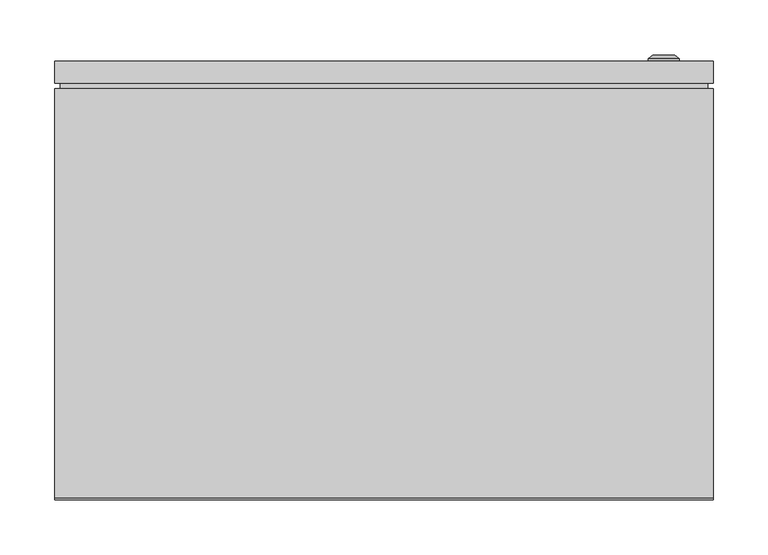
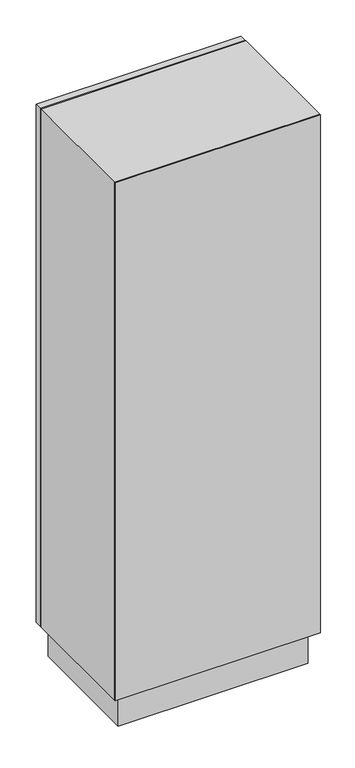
"""IFC4 building model written with IfcOpenShell, lengths in millimetres: proxy geometry, ЩМП_IP65 : ЩМП-16.6.4-0_1600х600х400."""

from ifc_helpers import new_model, si_unit, frame, origin, origin_with_axes, place, context, project, spatial, polyline, circle_curve, outline, extrude, source, transform, mapped, element, save
from ifc_brep_helpers import plane_surface, cylinder_surface, revolved_surface, advanced_brep


def electrical_equipment_e6f91f29(model_context):
    return source(origin(), model_context, "Body", "SolidModel", [
        extrude(outline(polyline([(277.5067809, 377.5), (277.5067809, 22.5), (-277.5, 22.5), (-277.5, 377.5), (277.5067809, 377.5)])), frame((0.0, 0.0, -100.0), z_axis=(0.0, 0.0, 1.0), x_axis=(1.0, 0.0, 0.0)), (0.0, 0.0, 1.0), 100.0),
        extrude(outline(polyline([(295.0, 375.0), (-295.0, 375.0), (-295.0, 380.0), (295.0, 380.0), (295.0, 375.0)])), frame((0.0, 0.0, 5.0), z_axis=(0.0, 0.0, 1.0), x_axis=(1.0, 0.0, 0.0)), (0.0, 0.0, 1.0), 1590.0),
        extrude(outline(polyline([(300.0, 380.0), (-300.0, 380.0), (-300.0, 400.0), (300.0, 400.0), (300.0, 380.0)])), origin_with_axes(), (0.0, 0.0, 1.0), 1600.0),
        advanced_brep(
        [(240.669873, 400.0, 800.0), (269.330127, 400.0, 800.0), (255.0, 400.0, 800.0), (240.669873, 402.366592, 800.0), (269.330127, 402.366592, 800.0), (245.0, 406.0, 800.0), (265.0, 406.0, 800.0), (253.1080471, 406.0, 800.0), (256.8919529, 406.0, 800.0), (253.1080471, 404.9822294, 800.0), (256.8919529, 404.9822294, 800.0), (255.0, 404.9822294, 800.0)],
        [
            (0, 1, circle_curve(frame((255.0, 400.0, 800.0), z_axis=(0.0, -1.0, 0.0), x_axis=(1.0, 0.0, 0.0)), 14.330127)),
            (1, 2),
            (2, 0),
            (1, 0, circle_curve(frame((255.0, 400.0, 800.0), z_axis=(0.0, -1.0, 0.0), x_axis=(1.0, 0.0, 0.0)), 14.330127)),
            (3, 4, circle_curve(frame((255.0, 402.366592, 800.0), z_axis=(0.0, -1.0, 0.0), x_axis=(1.0, 0.0, 0.0)), 14.330127)),
            (4, 1),
            (0, 3),
            (4, 3, circle_curve(frame((255.0, 402.366592, 800.0), z_axis=(0.0, -1.0, 0.0), x_axis=(1.0, 0.0, 0.0)), 14.330127)),
            (5, 6, circle_curve(frame((255.0, 406.0, 800.0), z_axis=(0.0, -1.0, 0.0), x_axis=(1.0, 0.0, 0.0)), 10.0)),
            (6, 4),
            (3, 5),
            (6, 5, circle_curve(frame((255.0, 406.0, 800.0), z_axis=(0.0, -1.0, 0.0), x_axis=(1.0, 0.0, 0.0)), 10.0)),
            (7, 8, circle_curve(frame((255.0, 406.0, 800.0), z_axis=(0.0, -1.0, 0.0), x_axis=(1.0, 0.0, 0.0)), 1.8919529)),
            (8, 6),
            (5, 7),
            (8, 7, circle_curve(frame((255.0, 406.0, 800.0), z_axis=(0.0, -1.0, 0.0), x_axis=(1.0, 0.0, 0.0)), 1.8919529)),
            (9, 10, circle_curve(frame((255.0, 404.9822294, 800.0), z_axis=(0.0, -1.0, 0.0), x_axis=(1.0, 0.0, 0.0)), 1.8919529)),
            (10, 8),
            (7, 9),
            (10, 9, circle_curve(frame((255.0, 404.9822294, 800.0), z_axis=(0.0, -1.0, 0.0), x_axis=(1.0, 0.0, 0.0)), 1.8919529)),
            (11, 10),
            (9, 11),
        ],
        [
            plane_surface(frame((255.0, 400.0, 800.0), z_axis=(0.0, -1.0, 0.0), x_axis=(1.0, 0.0, 0.0))),
            cylinder_surface(frame((255.0, 413.1348851, 800.0), z_axis=(0.0, 1.0, 0.0), x_axis=(1.0, 0.0, 0.0)), 14.330127),
            revolved_surface(polyline([(269.330127, 402.366592, 800.0), (265.0, 406.0, 800.0)]), (255.0, 413.1348851, 800.0), (0.0, 1.0, 0.0)),
            plane_surface(frame((255.0, 406.0, 800.0), z_axis=(0.0, 1.0, 0.0), x_axis=(1.0, 0.0, 0.0))),
            revolved_surface(polyline([(256.8919529, 406.0, 800.0), (256.8919529, 404.9822294, 800.0)]), (255.0, 413.1348851, 800.0), (0.0, 1.0, 0.0)),
            plane_surface(frame((255.0, 404.9822294, 800.0), z_axis=(0.0, 1.0, 0.0), x_axis=(1.0, 0.0, 0.0))),
        ],
        [
            (0, [[1, 2, 3]]),
            (0, [[4, -3, -2]]),
            (1, [[5, 6, -1, 7]]),
            (1, [[8, -7, -4, -6]]),
            (2, [[9, 10, -5, 11]]),
            (2, [[12, -11, -8, -10]]),
            (3, [[13, 14, -9, 15]]),
            (3, [[16, -15, -12, -14]]),
            (4, [[17, 18, -13, 19]]),
            (4, [[20, -19, -16, -18]]),
            (5, [[21, -17, 22]]),
            (5, [[-22, -20, -21]]),
        ],
    ),
        extrude(outline(polyline([(1600.0, -300.0033905), (0.0, -300.0033905), (0.0, 299.9966095), (1600.0, 299.9966095), (1600.0, -300.0033905)]), holes=[polyline([(1565.0, -265.0033905), (1565.0, 264.9966095), (35.0, 264.9966095), (35.0, -265.0033905), (1565.0, -265.0033905)])]), frame((0.0, 2.0, 0.0), z_axis=(0.0, 1.0, 0.0), x_axis=(0.0, 0.0, 1.0)), (0.0, 0.0, 1.0), 373.0),
        extrude(outline(polyline([(300.0, 0.0), (-300.0, 0.0), (-300.0, 2.0), (300.0, 2.0), (300.0, 0.0)])), origin_with_axes(), (0.0, 0.0, 1.0), 1600.0),
    ])


if __name__ == "__main__":
    model = new_model("IFC4")
    model_context = context("Model", 3, world=origin())
    ifc_project = project(units=[si_unit("LENGTHUNIT", "METRE", prefix="MILLI")], contexts=[model_context])
    site = spatial("IfcSite", under=ifc_project)
    building = spatial("IfcBuilding", under=site)
    placement = place(None, origin())
    electrical_equipment_shape = electrical_equipment_e6f91f29(model_context)
    element("IfcBuildingElementProxy", 1, Name="ЩМП_IP65 : ЩМП-16.6.4-0_1600х600х400", ObjectType="ЩМП_IP65 : ЩМП-16.6.4-0_1600х600х400", at=placement, inside=building, context=model_context, shape_type="MappedRepresentation", body=[
        mapped(electrical_equipment_shape, transform((0.0, 0.0, 0.0), x_axis=(1.0, 0.0, 0.0), y_axis=(0.0, 1.0, 0.0), z_axis=(0.0, 0.0, 1.0))),
    ])
    save(model, "model.ifc")
